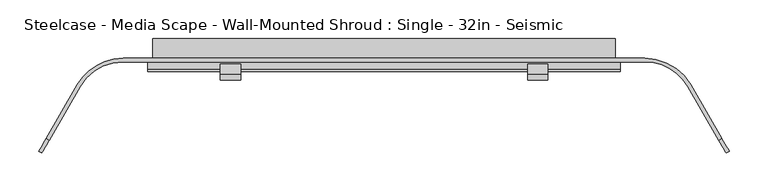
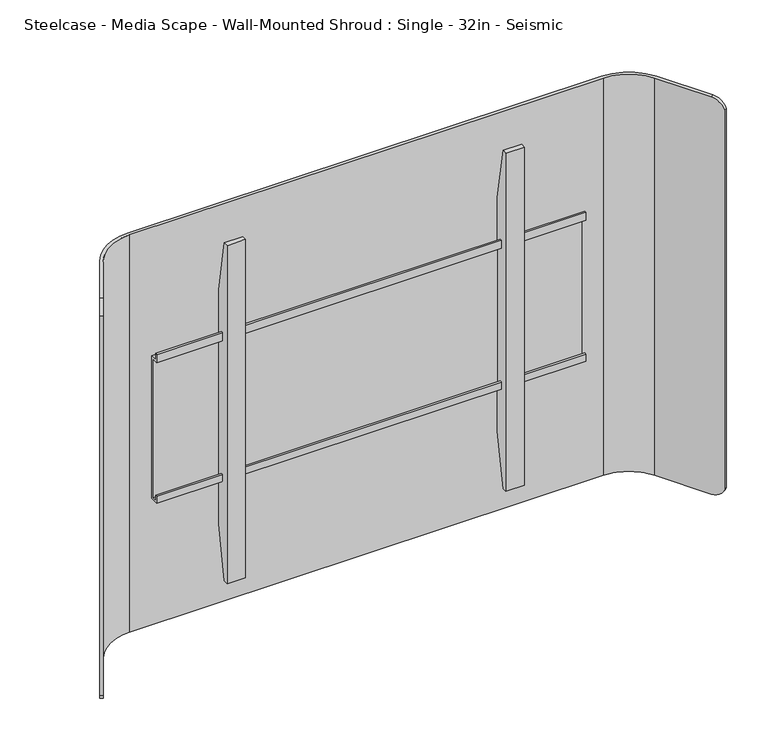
"""IFC4 building model written with IfcOpenShell, lengths in millimetres: furniture geometry, Steelcase - Media Scape - Wall-Mounted Shroud : Single - 32in - Seismic."""

from ifc_helpers import new_model, si_unit, frame, origin, place, context, project, spatial, polyline, circle_curve, outline, extrude, source, transform, mapped, element, save
from ifc_brep_helpers import plane_surface, cylinder_surface, revolved_surface, advanced_brep


def steelcase_media_scape_wall_mounted_shroud_single_32in_7cdeb264(model_context):
    return source(origin(), model_context, "Body", "SolidModel", [
        extrude(outline(polyline([(-42.4942785, 1237.6504726), (-42.4942785, 1249.6645649), (-39.8272175, 1249.6645649), (-39.8272175, 1240.317461), (-29.9720009, 1240.317461), (-29.9720009, 1025.9922438), (-42.3164551, 1025.9922438), (-42.3164551, 1036.9142515), (-39.649394, 1036.9142515), (-39.649394, 1028.657052), (-32.6531824, 1028.657052), (-32.6531824, 1237.6504726), (-42.4942785, 1237.6504726)])), frame((-304.8, 0.0, 0.0), z_axis=(1.0, 0.0, 0.0), x_axis=(0.0, 1.0, 0.0)), (0.0, 0.0, 1.0), 609.6),
        extrude(outline(polyline([(-32.6531824, 1308.5971148), (-32.6531824, 956.7825607), (-46.5049349, 879.1546949), (-53.3399828, 879.1546949), (-53.3399828, 1387.1547192), (-46.5050076, 1387.1547192), (-32.6531824, 1308.5971148)])), frame((185.0392868, 0.0, 0.0), z_axis=(1.0, 0.0, 0.0), x_axis=(0.0, 1.0, 0.0)), (0.0, 0.0, 1.0), 26.1592872),
        extrude(outline(polyline([(-32.6531824, 1308.5971148), (-32.6531824, 956.7825607), (-46.5049349, 879.1546949), (-53.3399828, 879.1546949), (-53.3399828, 1387.1547192), (-46.5050076, 1387.1547192), (-32.6531824, 1308.5971148)])), frame((-211.198574, 0.0, 0.0), z_axis=(1.0, 0.0, 0.0), x_axis=(0.0, 1.0, 0.0)), (0.0, 0.0, 1.0), 26.1592872),
        extrude(outline(polyline([(298.45, -25.4), (-298.45, -25.4), (-298.45, 0.0), (298.45, 0.0), (298.45, -25.4)])), frame((0.0, 0.0, 835.914), z_axis=(0.0, 0.0, 1.0), x_axis=(1.0, 0.0, 0.0)), (0.0, 0.0, 1.0), 76.2508167),
        advanced_brep(
        [(-391.5426135, -61.722, 1432.814), (-336.550002, -29.9720009, 1432.814), (336.55, -29.9720009, 1432.814), (391.5426135, -61.722, 1432.814), (431.663586, -131.2135628, 1432.814), (435.6230541, -128.9275628, 1432.814), (395.5020817, -59.436, 1432.814), (336.550002, -25.4, 1432.814), (-336.55, -25.4, 1432.814), (-395.5020817, -59.436, 1432.814), (-435.6261659, -128.9329524, 1432.814), (-431.6666977, -131.2189524, 1432.814), (-395.5020817, -59.436, 835.914), (-336.550002, -25.4, 835.914), (336.55, -25.4, 835.914), (395.5020817, -59.436, 835.914), (435.6746629, -129.0169518, 835.914), (431.7151948, -131.3029518, 835.914), (391.5426135, -61.722, 835.914), (336.550002, -29.9720009, 835.914), (-336.55, -29.9720009, 835.914), (-391.5426135, -61.722, 835.914), (-431.7294014, -131.3275584, 835.914), (-435.6888695, -129.0415584, 835.914), (-445.1930632, -145.5033047, 849.5242766), (-445.1930632, -145.5033047, 1418.8227735), (-441.2335951, -147.7893047, 1418.8227735), (-441.2335951, -147.7893047, 849.5242766), (441.2110866, -147.7503189, 849.4756893), (441.2110866, -147.7503189, 1418.9433849), (445.1705547, -145.4643189, 1418.9433849), (445.1705547, -145.4643189, 849.4756893)],
        [
            (0, 1, circle_curve(frame((-336.550002, -93.4719991, 1432.814), z_axis=(0.0, 0.0, -1.0), x_axis=(0.0, 1.0, 0.0)), 63.4999981)),
            (1, 2),
            (2, 3, circle_curve(frame((336.550002, -93.4719991, 1432.814), z_axis=(0.0, 0.0, -1.0), x_axis=(0.0, 1.0, 0.0)), 63.4999981)),
            (3, 4),
            (4, 5),
            (5, 6),
            (6, 7, circle_curve(frame((336.5500004, -93.472, 1432.814), z_axis=(0.0, 0.0, 1.0), x_axis=(0.0, 1.0, 0.0)), 68.072)),
            (7, 8),
            (8, 9, circle_curve(frame((-336.5500004, -93.472, 1432.814), z_axis=(0.0, 0.0, 1.0), x_axis=(0.0, 1.0, 0.0)), 68.072)),
            (9, 10),
            (10, 11),
            (11, 0),
            (12, 13, circle_curve(frame((-336.5500004, -93.472, 835.914), z_axis=(0.0, 0.0, -1.0), x_axis=(0.0, 1.0, 0.0)), 68.072)),
            (13, 14),
            (14, 15, circle_curve(frame((336.5500004, -93.472, 835.914), z_axis=(0.0, 0.0, -1.0), x_axis=(0.0, 1.0, 0.0)), 68.072)),
            (15, 16),
            (16, 17),
            (17, 18),
            (18, 19, circle_curve(frame((336.550002, -93.4719991, 835.914), z_axis=(0.0, 0.0, 1.0), x_axis=(0.0, 1.0, 0.0)), 63.4999981)),
            (19, 20),
            (20, 21, circle_curve(frame((-336.550002, -93.4719991, 835.914), z_axis=(0.0, 0.0, 1.0), x_axis=(0.0, 1.0, 0.0)), 63.4999981)),
            (21, 22),
            (22, 23),
            (23, 12),
            (0, 21),
            (20, 1),
            (8, 13),
            (12, 9),
            (23, 24, circle_curve(frame((-435.6888695, -129.0415584, 855.9928872), z_axis=(-0.866025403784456, 0.4999999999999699, 0.0), x_axis=(-0.4999999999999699, -0.866025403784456, 0.0)), 20.0788872)),
            (24, 25),
            (25, 10, circle_curve(frame((-435.6261659, -128.9329524, 1412.7351128), z_axis=(-0.8660254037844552, 0.4999999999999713, 0.0), x_axis=(-0.4999999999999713, -0.8660254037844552, 0.0)), 20.0788872)),
            (26, 25),
            (24, 27),
            (27, 26),
            (11, 26, circle_curve(frame((-431.6666977, -131.2189524, 1412.7351128), z_axis=(0.8660254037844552, -0.4999999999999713, 0.0), x_axis=(-0.4999999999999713, -0.8660254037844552, 0.0)), 20.0788872)),
            (27, 22, circle_curve(frame((-431.7294014, -131.3275584, 855.9928872), z_axis=(0.866025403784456, -0.4999999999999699, 0.0), x_axis=(-0.4999999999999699, -0.866025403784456, 0.0)), 20.0788872)),
            (7, 14),
            (19, 2),
            (3, 18),
            (17, 28, circle_curve(frame((431.7151948, -131.3029518, 855.9928872), z_axis=(-0.8660254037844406, -0.4999999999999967, 0.0), x_axis=(0.4999999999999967, -0.8660254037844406, 0.0)), 20.0788872)),
            (28, 29),
            (29, 4, circle_curve(frame((431.663586, -131.2135628, 1412.7351128), z_axis=(-0.8660254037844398, -0.49999999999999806, 0.0), x_axis=(0.49999999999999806, -0.8660254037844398, 0.0)), 20.0788872)),
            (30, 29),
            (28, 31),
            (31, 30),
            (15, 6),
            (5, 30, circle_curve(frame((435.6230541, -128.9275628, 1412.7351128), z_axis=(0.8660254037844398, 0.49999999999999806, 0.0), x_axis=(0.49999999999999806, -0.8660254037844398, 0.0)), 20.0788872)),
            (31, 16, circle_curve(frame((435.6746629, -129.0169518, 855.9928872), z_axis=(0.8660254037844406, 0.4999999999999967, 0.0), x_axis=(0.4999999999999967, -0.8660254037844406, 0.0)), 20.0788872)),
        ],
        [
            plane_surface(frame((-336.550002, -29.9720009, 1432.814), z_axis=(0.0, 0.0, 1.0), x_axis=(1.0, 0.0, 0.0))),
            plane_surface(frame((-336.550002, -29.9720009, 835.914), z_axis=(0.0, 0.0, -1.0), x_axis=(-1.0, 0.0, 0.0))),
            revolved_surface(polyline([(-336.550002, -29.972001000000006, 835.914), (-336.550002, -29.972001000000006, 1432.814)]), (-336.550002, -93.4719991, 835.914), (0.0, 0.0, -1.0)),
            cylinder_surface(frame((-336.5500004, -93.472, 835.914), z_axis=(0.0, 0.0, 1.0), x_axis=(0.0, 1.0, 0.0)), 68.072),
            plane_surface(frame((-395.5020817, -59.436, 1432.814), z_axis=(-0.866025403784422, 0.5000000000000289, 0.0), x_axis=(0.0, 0.0, -1.0))),
            plane_surface(frame((-445.1930632, -145.5033047, 1432.814), z_axis=(-0.5000000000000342, -0.866025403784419, 0.0), x_axis=(0.0, 0.0, -1.0))),
            plane_surface(frame((-441.2335951, -147.7893047, 1432.814), z_axis=(0.8660254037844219, -0.500000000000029, 0.0), x_axis=(0.0, 0.0, -1.0))),
            plane_surface(frame((336.55, -25.4, 1432.814), z_axis=(0.0, 1.0, 0.0), x_axis=(0.0, 0.0, -1.0))),
            plane_surface(frame((-336.55, -29.9720009, 1432.814), z_axis=(0.0, -1.0, 0.0), x_axis=(0.0, 0.0, -1.0))),
            plane_surface(frame((391.5426135, -61.722, 1432.814), z_axis=(-0.8660254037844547, -0.4999999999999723, 0.0), x_axis=(0.0, 0.0, -1.0))),
            plane_surface(frame((441.2110866, -147.7503189, 1432.814), z_axis=(0.4999999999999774, -0.8660254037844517, 0.0), x_axis=(0.0, 0.0, -1.0))),
            plane_surface(frame((445.1705547, -145.4643189, 1432.814), z_axis=(0.8660254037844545, 0.49999999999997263, 0.0), x_axis=(0.0, 0.0, -1.0))),
            cylinder_surface(frame((336.5500004, -93.472, 835.914), z_axis=(0.0, 0.0, 1.0), x_axis=(0.0, 1.0, 0.0)), 68.072),
            revolved_surface(polyline([(336.550002, -29.972001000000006, 835.914), (336.550002, -29.972001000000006, 1432.814)]), (336.550002, -93.4719991, 835.914), (0.0, 0.0, -1.0)),
            cylinder_surface(frame((-431.6666977, -131.2189524, 1412.7351128), z_axis=(0.8660254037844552, -0.4999999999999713, 0.0), x_axis=(-0.4999999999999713, -0.8660254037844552, 0.0)), 20.0788872),
            cylinder_surface(frame((-431.7294014, -131.3275584, 855.9928872), z_axis=(0.866025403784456, -0.4999999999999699, 0.0), x_axis=(-0.4999999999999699, -0.866025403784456, 0.0)), 20.0788872),
            cylinder_surface(frame((446.7704297, -122.4916225, 1412.7351128), z_axis=(0.8660254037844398, 0.49999999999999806, 0.0), x_axis=(0.49999999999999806, -0.8660254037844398, 0.0)), 20.0788872),
            cylinder_surface(frame((443.9629695, -124.2316958, 855.9928872), z_axis=(0.8660254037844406, 0.4999999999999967, 0.0), x_axis=(0.4999999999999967, -0.8660254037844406, 0.0)), 20.0788872),
        ],
        [
            (0, [[1, 2, 3, 4, 5, 6, 7, 8, 9, 10, 11, 12]]),
            (1, [[13, 14, 15, 16, 17, 18, 19, 20, 21, 22, 23, 24]]),
            (2, [[-1, 25, -21, 26]]),
            (3, [[-9, 27, -13, 28]]),
            (4, [[-28, -24, 29, 30, 31, -10]]),
            (5, [[32, -30, 33, 34]]),
            (6, [[-25, -12, 35, -34, 36, -22]]),
            (7, [[-8, 37, -14, -27]]),
            (8, [[-2, -26, -20, 38]]),
            (9, [[39, -18, 40, 41, 42, -4]]),
            (10, [[43, -41, 44, 45]]),
            (11, [[46, -6, 47, -45, 48, -16]]),
            (12, [[-7, -46, -15, -37]]),
            (13, [[-3, -38, -19, -39]]),
            (14, [[-11, -31, -32, -35]]),
            (15, [[-23, -36, -33, -29]]),
            (16, [[-5, -42, -43, -47]]),
            (17, [[-17, -48, -44, -40]]),
        ],
    ),
        extrude(outline(polyline([(912.1648167, 234.9499879), (912.1648167, 298.45), (1356.614, 298.45), (1356.614, -298.45), (912.1648167, -298.45), (912.1648167, -235.9433465), (1293.1139516, -235.9433465), (1293.1139516, 234.9499879), (912.1648167, 234.9499879)])), frame((0.0, -25.4, 0.0), z_axis=(0.0, 1.0, 0.0), x_axis=(0.0, 0.0, 1.0)), (0.0, 0.0, 1.0), 25.4),
    ])


if __name__ == "__main__":
    model = new_model("IFC4")
    model_context = context("Model", 3, world=origin())
    ifc_project = project(units=[si_unit("LENGTHUNIT", "METRE", prefix="MILLI")], contexts=[model_context])
    site = spatial("IfcSite", under=ifc_project)
    building = spatial("IfcBuilding", under=site)
    placement = place(None, origin())
    steelcase_media_scape_wall_mounted_shroud_single_32in_shape = steelcase_media_scape_wall_mounted_shroud_single_32in_7cdeb264(model_context)
    element("IfcFurniture", 1, ObjectType="Steelcase - Media Scape - Wall-Mounted Shroud : Single - 32in - Seismic", at=placement, inside=building, context=model_context, shape_type="MappedRepresentation", body=[
        mapped(steelcase_media_scape_wall_mounted_shroud_single_32in_shape, transform((0.0, 0.0, 0.0), x_axis=(1.0, 0.0, 0.0), y_axis=(0.0, 1.0, 0.0), z_axis=(0.0, 0.0, 1.0))),
    ])
    save(model, "model.ifc")
